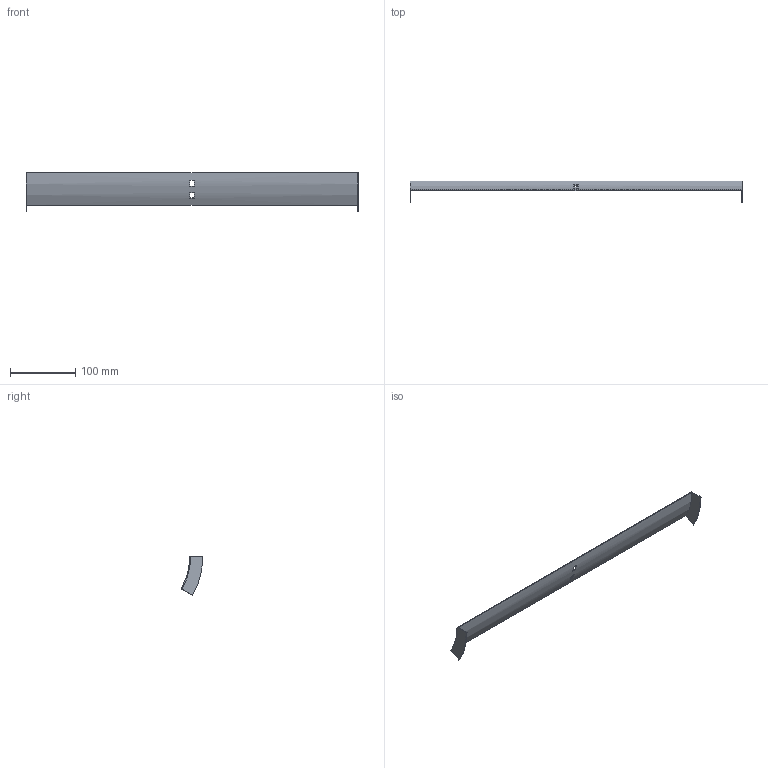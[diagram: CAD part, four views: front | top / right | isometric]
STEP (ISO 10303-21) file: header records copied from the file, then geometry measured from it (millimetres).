
FILE_DESCRIPTION (( 'STEP AP214' ), '1' );
FILE_NAME ('32N1R500.step', '2025-02-21T09:22:37', ( '' ), ( '' ), 'SwSTEP 2.0', 'SolidWorks 2023', '' );
FILE_SCHEMA (( 'AUTOMOTIVE_DESIGN' ));
Length unit declared in the file: millimetre
Products named in the file (1): 32N1R500
Bounding box: 507 x 33.2 x 59.25 mm (x, y, z)
Volume: 42517.8 mm3; surface area: 58601.7 mm2
Topology: 1 solids, 1 shells, 18 faces, 48 edges, 32 vertices
Faces by surface type: plane 14, cylinder 4
Entity records: 599 total; most frequent: DIRECTION 102, CARTESIAN_POINT 99, ORIENTED_EDGE 96, EDGE_CURVE 48, AXIS2_PLACEMENT_3D 35, VERTEX_POINT 32, VECTOR 32, LINE 32
